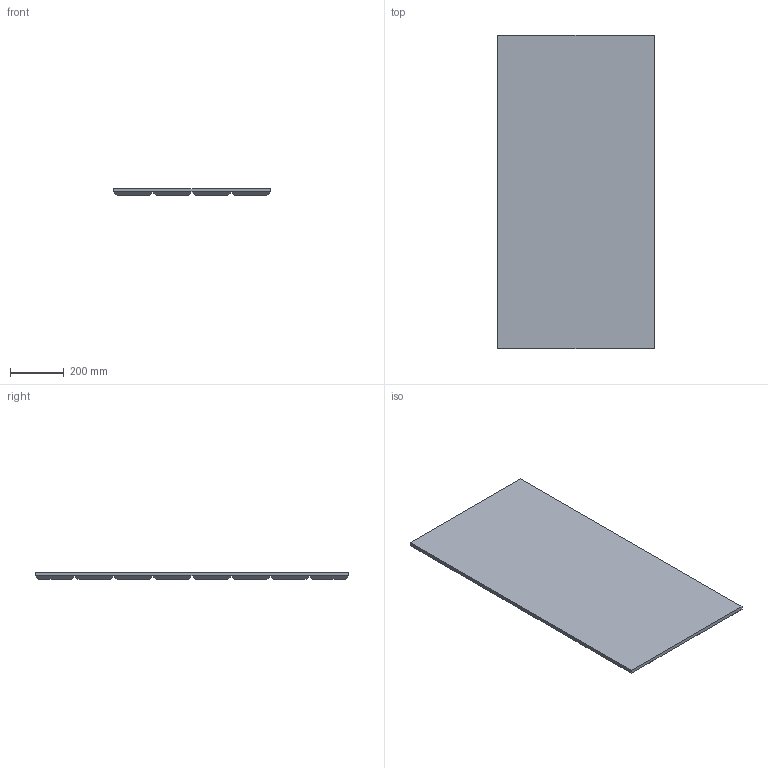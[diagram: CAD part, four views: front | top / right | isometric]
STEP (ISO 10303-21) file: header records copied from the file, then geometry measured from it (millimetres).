
FILE_DESCRIPTION (( 'STEP AP214' ), '1' );
FILE_NAME ('check.STEP', '2015-01-21T17:14:05', ( '' ), ( '' ), 'SwSTEP 2.0', 'SolidWorks 2014', '' );
FILE_SCHEMA (( 'AUTOMOTIVE_DESIGN' ));
Length unit declared in the file: millimetre
Products named in the file (1): check
Bounding box: 580 x 1160 x 25 mm (x, y, z)
Volume: 15453333.3 mm3; surface area: 1476913.3 mm2
Topology: 1 solids, 1 shells, 165 faces, 340 edges, 177 vertices
Faces by surface type: plane 165
Entity records: 4096 total; most frequent: CARTESIAN_POINT 683, ORIENTED_EDGE 680, DIRECTION 672, VECTOR 340, EDGE_CURVE 340, LINE 340, VERTEX_POINT 177, AXIS2_PLACEMENT_3D 166
